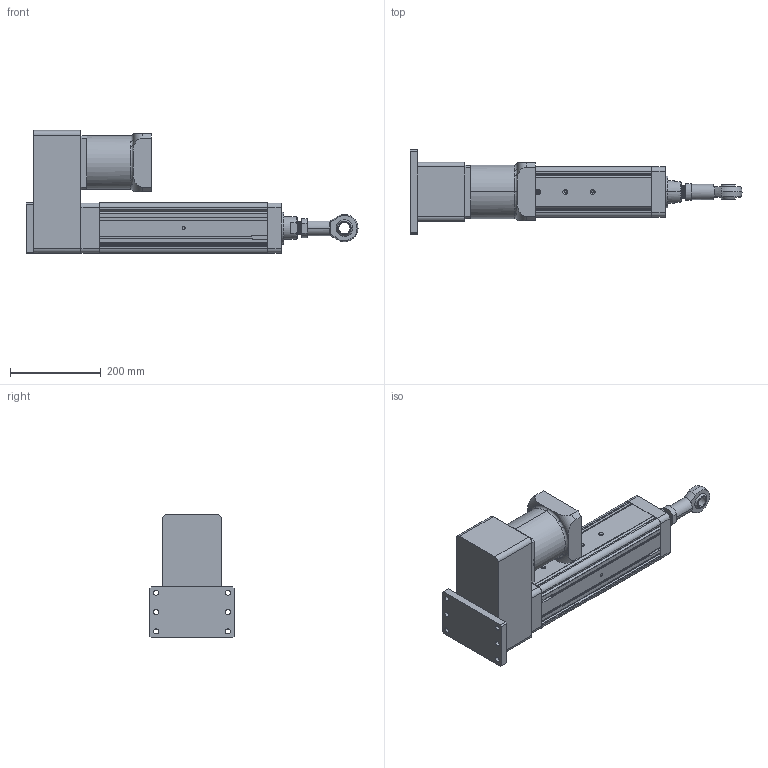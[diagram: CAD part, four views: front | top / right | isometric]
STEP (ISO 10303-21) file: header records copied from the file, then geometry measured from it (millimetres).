
FILE_DESCRIPTION (( 'STEP AP203' ), '1' );
FILE_NAME ('YRJ110-L200-H4K3.STEP', '2020-01-06T01:47:49', ( 'User' ), ( 'China' ), 'SwSTEP 2.0', 'SolidWorks 2016', '' );
FILE_SCHEMA (( 'CONFIG_CONTROL_DESIGN' ));
Length unit declared in the file: millimetre
Products named in the file (12): H4-110; _BNC01-SI25T_K-R-002; 120遺1500W珨撰熬厒儂; BNC01-SI25T_K-R; K1-110; K3-110; _BNC01-SI25T_K-R-001; YRJ110-L200-H4K3; 095-100俴最倰第; H5-110-1; 萇儂碟-110; H3-110-2
Assembly tree (11 placements, depth 4):
  YRJ110-L200-H4K3
    095-100俴最倰第
    H5-110-1
    萇儂碟-110
    H3-110-2
    H4-110
    120遺1500W珨撰熬厒儂
    K3-110
      K1-110
      BNC01-SI25T_K-R
        _BNC01-SI25T_K-R-001
        _BNC01-SI25T_K-R-002
Bounding box: 731 x 185 x 271 mm (x, y, z)
Volume: 8369006.7 mm3; surface area: 779610 mm2
Topology: 9 solids, 9 shells, 410 faces, 1116 edges, 713 vertices
Faces by surface type: cylinder 178, plane 173, cone 36, bspline 18, torus 5
Entity records: 23256 total; most frequent: CARTESIAN_POINT 11868, ORIENTED_EDGE 2176, DIRECTION 2052, EDGE_CURVE 1088, AXIS2_PLACEMENT_3D 721, VERTEX_POINT 713, VECTOR 610, LINE 610
